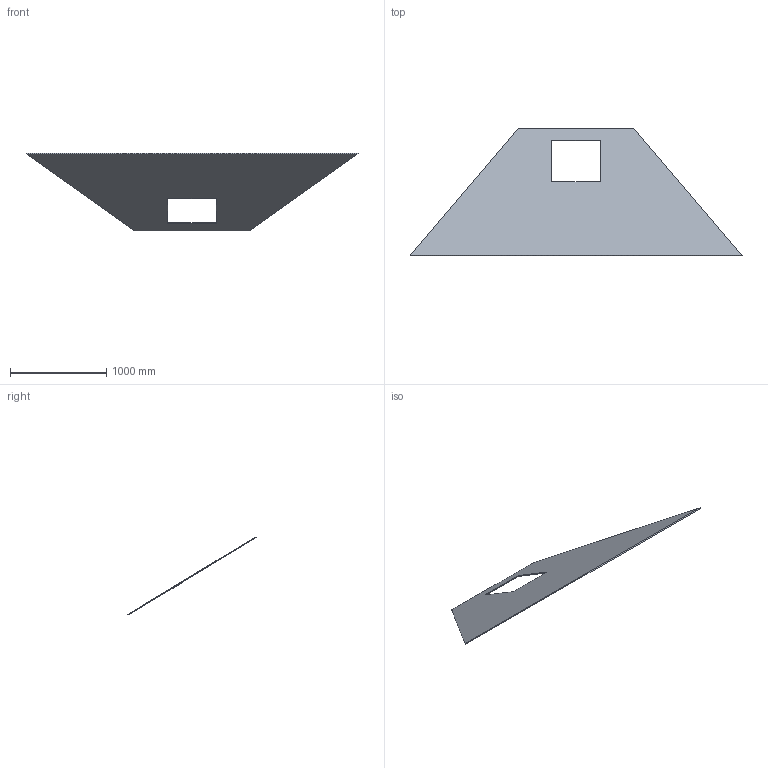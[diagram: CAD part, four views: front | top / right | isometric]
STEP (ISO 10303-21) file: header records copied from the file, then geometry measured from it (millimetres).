
FILE_DESCRIPTION(('Open CASCADE Model'),'2;1');
FILE_NAME('Open CASCADE Shape Model','2026-09-19T12:55:11',('Author'),( 'Open CASCADE'),'Open CASCADE STEP processor 7.9','Open CASCADE 7.9' ,'Unknown');
FILE_SCHEMA(('AUTOMOTIVE_DESIGN { 1 0 10303 214 1 1 1 1 }'));
Length unit declared in the file: millimetre
Products named in the file (1): Open CASCADE STEP translator 7.9 12
Bounding box: 3450 x 1330.17 x 808.56 mm (x, y, z)
Volume: 33485900.6 mm3; surface area: 6801948.9 mm2
Topology: 1 solids, 1 shells, 10 faces, 24 edges, 16 vertices
Faces by surface type: plane 10
Entity records: 614 total; most frequent: CARTESIAN_POINT 99, DIRECTION 94, LINE 72, VECTOR 72, ORIENTED_EDGE 48, PCURVE 48, DEFINITIONAL_REPRESENTATION 48, EDGE_CURVE 24
